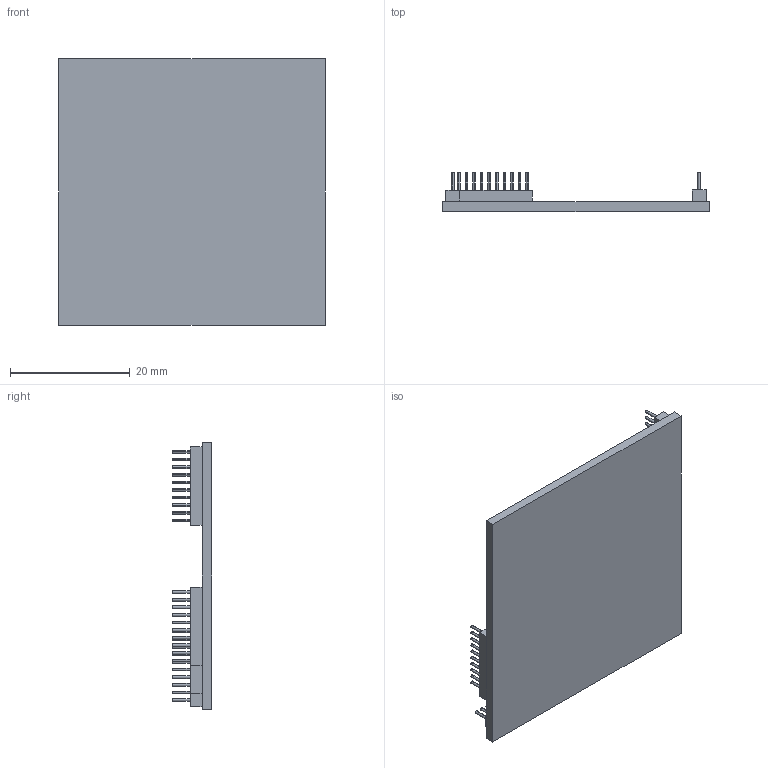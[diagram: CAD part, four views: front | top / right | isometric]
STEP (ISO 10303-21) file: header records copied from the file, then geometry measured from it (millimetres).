
FILE_DESCRIPTION((''),'2;1');
FILE_NAME('MIINEPORT_W1','2012-03-23T',('Vincent_Huang'),(''),'PRO/ENGINEER BY PARAMETRIC TECHNOLOGY CORPORATION, 2004320','PRO/ENGINEER BY PARAMETRIC TECHNOLOGY CORPORATION, 2004320','');
FILE_SCHEMA(('CONFIG_CONTROL_DESIGN'));
Length unit declared in the file: millimetre
Products named in the file (1): MIINEPORT_W1
Bounding box: 44.5 x 6.6 x 44.5 mm (x, y, z)
Volume: 3428.3 mm3; surface area: 4661.2 mm2
Topology: 1 solids, 1 shells, 146 faces, 300 edges, 200 vertices
Faces by surface type: cylinder 80, plane 66
Entity records: 3962 total; most frequent: DIRECTION 752, CARTESIAN_POINT 646, ORIENTED_EDGE 600, AXIS2_PLACEMENT_3D 306, EDGE_CURVE 300, VERTEX_POINT 200, EDGE_LOOP 190, CIRCLE 160
